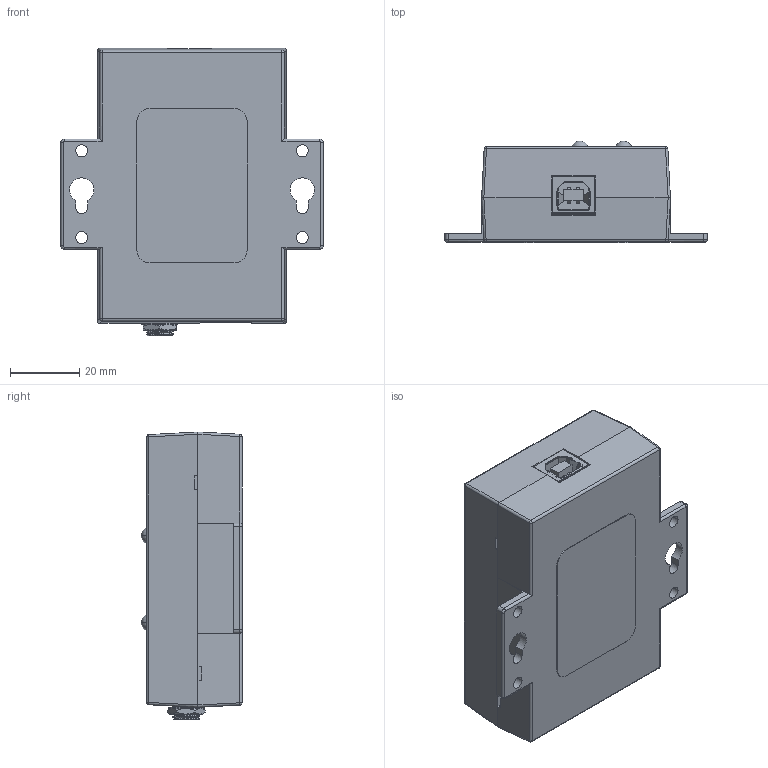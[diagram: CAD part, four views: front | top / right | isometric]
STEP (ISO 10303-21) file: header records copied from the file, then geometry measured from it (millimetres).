
FILE_DESCRIPTION (( 'STEP AP214' ), '1' );
FILE_NAME ('UHR401.STEP', '2018-10-17T20:59:58', ( '' ), ( '' ), 'SwSTEP 2.0', 'SolidWorks 2016', '' );
FILE_SCHEMA (( 'AUTOMOTIVE_DESIGN' ));
Length unit declared in the file: inch
Products named in the file (12): 8757 8758 Enclosure Assmebly; 8757 Top; 8758 Bottom; UHR401; 250-11363-00 Silver Label; 250-10696-00 Top; 8546 USB A RT Angle; 4060 Lead Spacer 0.38L x 0.2D; 1311 Green LED; 6256 Power Jack; 4921 USB B; PCB
Assembly tree (13 placements, depth 3):
  UHR401
    8757 8758 Enclosure Assmebly
      8758 Bottom
      8757 Top
    PCB
    4921 USB B
    6256 Power Jack
    1311 Green LED  x2
    4060 Lead Spacer 0.38L x 0.2D  x2
    8546 USB A RT Angle
    250-10696-00 Top
    250-11363-00 Silver Label
Bounding box: 75.49 x 29.31 x 82.9 mm (x, y, z)
Volume: 41643.8 mm3; surface area: 55218 mm2
Topology: 14 solids, 14 shells, 1376 faces, 3847 edges, 2528 vertices
Faces by surface type: plane 872, cylinder 413, cone 49, bspline 20, sphere 12, torus 10
Entity records: 55408 total; most frequent: CARTESIAN_POINT 11232, ORIENTED_EDGE 7460, DIRECTION 6787, EDGE_CURVE 3730, VECTOR 2663, LINE 2663, VERTEX_POINT 2458, AXIS2_PLACEMENT_3D 2062
